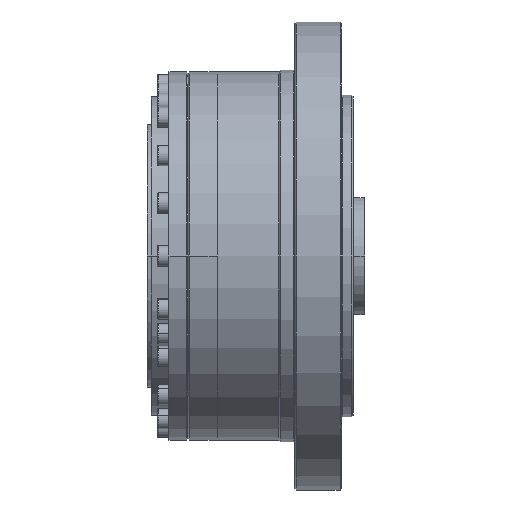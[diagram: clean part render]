
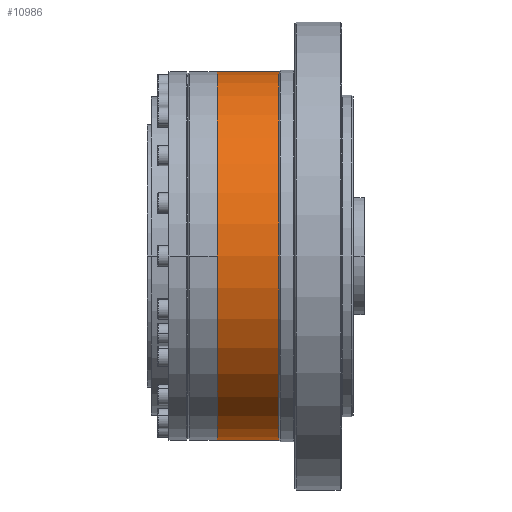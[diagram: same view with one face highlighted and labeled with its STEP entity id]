
A CAD part, front view. The second image highlights one B-rep face of the part: STEP entity #10986.
In plain terms, the highlighted cylindrical face has radius 63 mm (diameter 126 mm), a partial arc.
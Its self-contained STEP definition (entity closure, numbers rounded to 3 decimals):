
#264 = VERTEX_POINT ( 'NONE', #43838 ) ;
#357 = CARTESIAN_POINT ( 'NONE',  ( 2.3, 0., 0. ) ) ;
#542 = AXIS2_PLACEMENT_3D ( 'NONE', #31273, #8273, #35205 ) ;
#1933 = VERTEX_POINT ( 'NONE', #7773 ) ;
#2641 = ORIENTED_EDGE ( 'NONE', *, *, #29509, .F. ) ;
#4626 = VECTOR ( 'NONE', #42527, 1000. ) ;
#5743 = CYLINDRICAL_SURFACE ( 'NONE', #6014, 63. ) ;
#6014 = AXIS2_PLACEMENT_3D ( 'NONE', #357, #31111, #15666 ) ;
#7386 = DIRECTION ( 'NONE',  ( -1., 0., 0. ) ) ;
#7773 = CARTESIAN_POINT ( 'NONE',  ( 4.5, 0., 63. ) ) ;
#8181 = FACE_OUTER_BOUND ( 'NONE', #17451, .T. ) ;
#8273 = DIRECTION ( 'NONE',  ( -1., 0., 0. ) ) ;
#10368 = LINE ( 'NONE', #11245, #48890 ) ;
#10986 = ADVANCED_FACE ( 'NONE', ( #8181 ), #5743, .T. ) ;
#11245 = CARTESIAN_POINT ( 'NONE',  ( 2.3, 0., -63. ) ) ;
#12106 = VERTEX_POINT ( 'NONE', #36714 ) ;
#13195 = CIRCLE ( 'NONE', #542, 63. ) ;
#15666 = DIRECTION ( 'NONE',  ( 0., 0., 1. ) ) ;
#17451 = EDGE_LOOP ( 'NONE', ( #2641, #43644, #47735, #33760 ) ) ;
#20346 = CARTESIAN_POINT ( 'NONE',  ( 4.5, 0., 0. ) ) ;
#24233 = DIRECTION ( 'NONE',  ( 0., 0., 1. ) ) ;
#25231 = AXIS2_PLACEMENT_3D ( 'NONE', #20346, #47300, #24233 ) ;
#26138 = CARTESIAN_POINT ( 'NONE',  ( 25.5, 0., -63. ) ) ;
#26314 = LINE ( 'NONE', #38636, #4626 ) ;
#29505 = CIRCLE ( 'NONE', #25231, 63. ) ;
#29509 = EDGE_CURVE ( 'NONE', #36566, #12106, #10368, .T. ) ;
#31111 = DIRECTION ( 'NONE',  ( -1., 0., 0. ) ) ;
#31273 = CARTESIAN_POINT ( 'NONE',  ( 25.5, 0., 0. ) ) ;
#33510 = EDGE_CURVE ( 'NONE', #36566, #264, #13195, .T. ) ;
#33760 = ORIENTED_EDGE ( 'NONE', *, *, #47314, .F. ) ;
#34535 = EDGE_CURVE ( 'NONE', #264, #1933, #26314, .T. ) ;
#35205 = DIRECTION ( 'NONE',  ( 0., 0., 1. ) ) ;
#36566 = VERTEX_POINT ( 'NONE', #26138 ) ;
#36714 = CARTESIAN_POINT ( 'NONE',  ( 4.5, 0., -63. ) ) ;
#38636 = CARTESIAN_POINT ( 'NONE',  ( 2.3, 0., 63. ) ) ;
#42527 = DIRECTION ( 'NONE',  ( -1., 0., 0. ) ) ;
#43644 = ORIENTED_EDGE ( 'NONE', *, *, #33510, .T. ) ;
#43838 = CARTESIAN_POINT ( 'NONE',  ( 25.5, 0., 63. ) ) ;
#47300 = DIRECTION ( 'NONE',  ( -1., 0., 0. ) ) ;
#47314 = EDGE_CURVE ( 'NONE', #12106, #1933, #29505, .T. ) ;
#47735 = ORIENTED_EDGE ( 'NONE', *, *, #34535, .T. ) ;
#48890 = VECTOR ( 'NONE', #7386, 1000. ) ;
